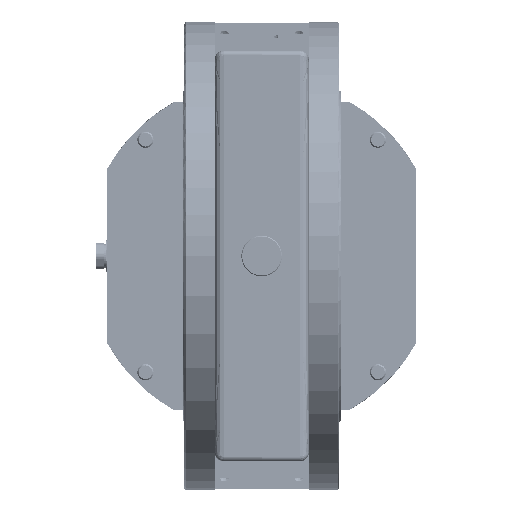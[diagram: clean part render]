
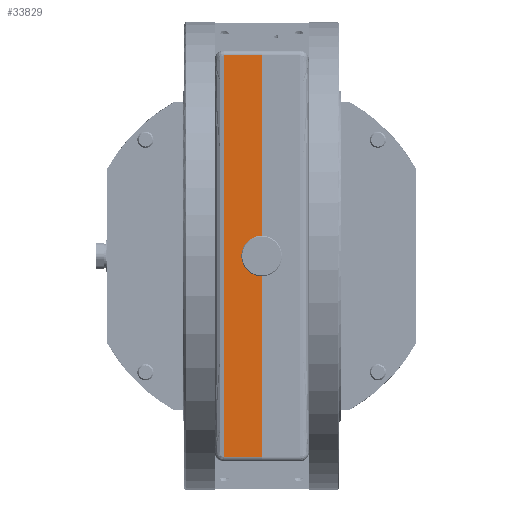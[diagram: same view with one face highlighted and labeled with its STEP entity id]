
A CAD part, left-side view. The second image highlights one B-rep face of the part: STEP entity #33829.
In plain terms, the highlighted free-form (B-spline) face has degree [1, 1] with [2, 2] control points.
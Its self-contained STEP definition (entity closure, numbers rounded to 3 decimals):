
#33794=CARTESIAN_POINT('F21',(-134.0,123.5,0.0));
#33795=CARTESIAN_POINT('F21',(-134.0,-123.5,0.0));
#33796=CARTESIAN_POINT('F21',(-134.0,123.5,29.0));
#33797=CARTESIAN_POINT('F21',(-134.0,-123.5,29.0));
#33798=B_SPLINE_SURFACE_WITH_KNOTS('F21',1,1,((#33794,#33796),(
   #33795,#33797)),.PLANE_SURF.,.F.,.F.,.U.,(2,2),(2,2),(0.0,
   8.517),(0.0,1.0),.UNSPECIFIED.);
#33799=CARTESIAN_POINT('V31',(-134.0,-123.5,
   23.5));
#33800=VERTEX_POINT('V31',#33799);
#33801=CARTESIAN_POINT('V32',(-134.0,123.5,
   23.5));
#33802=VERTEX_POINT('V32',#33801);
#33803=CARTESIAN_POINT('E51',(-134.0,-123.5,
   23.5));
#33804=CARTESIAN_POINT('E51',(-134.0,123.5,
   23.5));
#33805=B_SPLINE_CURVE_WITH_KNOTS('E51',1,(#33803,#33804),
   .POLYLINE_FORM.,.F.,.U.,(2,2),(2.0,30.59),
   .UNSPECIFIED.);
#33806=EDGE_CURVE('E51',#33800,#33802,#33805,.T.);
#33807=ORIENTED_EDGE('E51',*,*,#33806,.F.);
#33808=CARTESIAN_POINT('V10',(-134.0,-123.5,0.0));
#33809=VERTEX_POINT('V10',#33808);
#33810=CARTESIAN_POINT('E60',(-134.0,-123.5,
   23.5));
#33811=CARTESIAN_POINT('E60',(-134.0,-123.5,0.0));
#33812=B_SPLINE_CURVE_WITH_KNOTS('E60',1,(#33810,#33811),
   .POLYLINE_FORM.,.F.,.U.,(2,2),(0.19,1.0),
   .UNSPECIFIED.);
#33813=EDGE_CURVE('E60',#33800,#33809,#33812,.T.);
#33814=ORIENTED_EDGE('E60',*,*,#33813,.T.);
#33815=CARTESIAN_POINT('V11',(-134.0,123.5,0.0));
#33816=VERTEX_POINT('V11',#33815);
#33817=CARTESIAN_POINT('E10',(-134.0,-123.5,0.0));
#33818=CARTESIAN_POINT('E10',(-134.0,123.5,0.0));
#33819=QUASI_UNIFORM_CURVE('E10',1,(#33817,#33818),.POLYLINE_FORM.,
   .F.,.U.);
#33820=EDGE_CURVE('E10',#33809,#33816,#33819,.T.);
#33821=ORIENTED_EDGE('E10',*,*,#33820,.T.);
#33822=CARTESIAN_POINT('E59',(-134.0,123.5,
   23.5));
#33823=CARTESIAN_POINT('E59',(-134.0,123.5,0.0));
#33824=B_SPLINE_CURVE_WITH_KNOTS('E59',1,(#33822,#33823),
   .POLYLINE_FORM.,.F.,.U.,(2,2),(0.19,1.0),
   .UNSPECIFIED.);
#33825=EDGE_CURVE('E59',#33802,#33816,#33824,.T.);
#33826=ORIENTED_EDGE('E59',*,*,#33825,.F.);
#33827=EDGE_LOOP('F21',(#33807,#33814,#33821,#33826));
#33828=FACE_OUTER_BOUND('F21',#33827,.F.);
#33829=ADVANCED_FACE('F21',(#33828),#33798,.T.);
